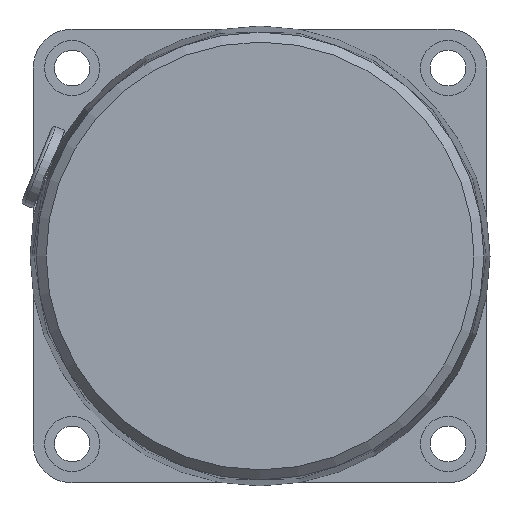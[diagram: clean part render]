
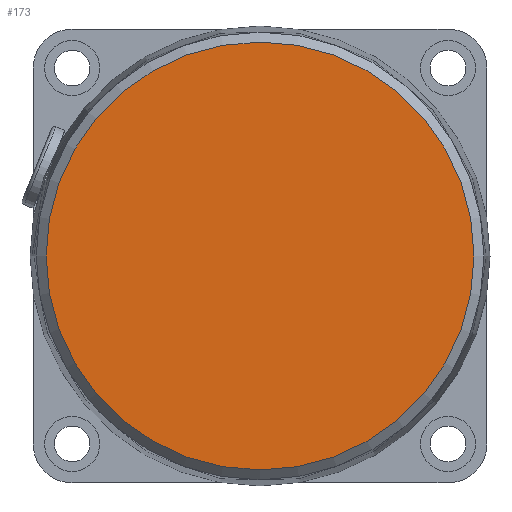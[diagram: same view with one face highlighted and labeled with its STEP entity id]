
A CAD part, left-side view. The second image highlights one B-rep face of the part: STEP entity #173.
In plain terms, the highlighted planar face has unit normal (-1, 0, 0).
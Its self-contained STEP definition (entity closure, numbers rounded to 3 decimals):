
#157=CARTESIAN_POINT('',(-35.5,0.,0.));
#158=DIRECTION('',(1.0,0.0,0.0));
#159=DIRECTION('',(0.0,-1.0,0.0));
#160=AXIS2_PLACEMENT_3D('',#157,#158,#159);
#161=PLANE('',#160);
#162=CARTESIAN_POINT('',(-35.5,33.,0.));
#163=VERTEX_POINT('',#162);
#164=CARTESIAN_POINT('',(-35.5,0.,0.));
#165=DIRECTION('',(1.0,0.0,0.0));
#166=DIRECTION('',(0.0,-1.0,0.0));
#167=AXIS2_PLACEMENT_3D('',#164,#165,#166);
#168=CIRCLE('',#167,33.0);
#169=EDGE_CURVE('',#163,#163,#168,.T.);
#170=ORIENTED_EDGE('',*,*,#169,.F.);
#171=EDGE_LOOP('',(#170));
#172=FACE_OUTER_BOUND('',#171,.T.);
#173=ADVANCED_FACE('',(#172),#161,.F.);
